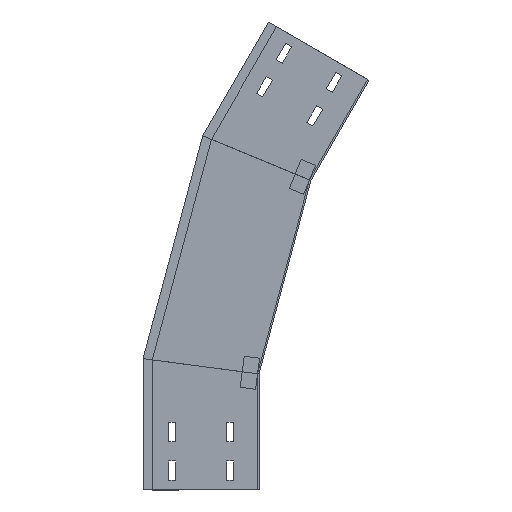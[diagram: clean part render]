
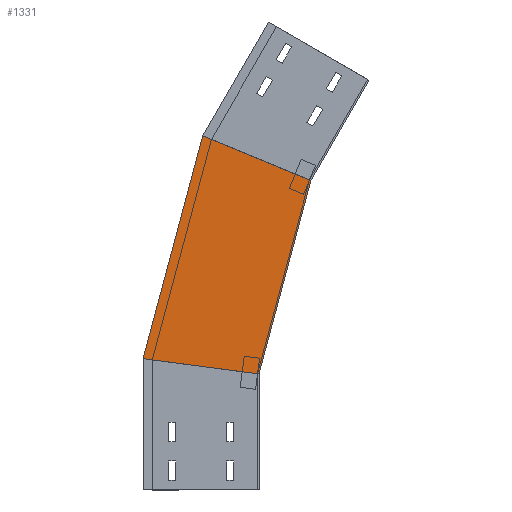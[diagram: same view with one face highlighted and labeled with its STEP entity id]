
A CAD part, left-side view. The second image highlights one B-rep face of the part: STEP entity #1331.
In plain terms, the highlighted planar face has unit normal (-1, 0, 0) as drawn and (1, 0, 0) by its records, which use the part's own axes.
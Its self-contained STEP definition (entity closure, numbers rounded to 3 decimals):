
#44 = DIRECTION ( 'NONE',  ( 0., -0.259, 0.966 ) ) ;
#86 = CARTESIAN_POINT ( 'NONE',  ( 0., -67.034, 400.175 ) ) ;
#119 = ORIENTED_EDGE ( 'NONE', *, *, #1348, .T. ) ;
#223 = CARTESIAN_POINT ( 'NONE',  ( 0., 5.648, 128.921 ) ) ;
#299 = VERTEX_POINT ( 'NONE', #480 ) ;
#475 = DIRECTION ( 'NONE',  ( 0., -0.991, -0.131 ) ) ;
#480 = CARTESIAN_POINT ( 'NONE',  ( 0., 0., 150. ) ) ;
#499 = VECTOR ( 'NONE', #1451, 1000. ) ;
#640 = EDGE_CURVE ( 'NONE', #299, #1707, #1135, .T. ) ;
#702 = EDGE_LOOP ( 'NONE', ( #842, #119, #1077, #1518 ) ) ;
#704 = CARTESIAN_POINT ( 'NONE',  ( 0., 72.744, 458.073 ) ) ;
#788 = LINE ( 'NONE', #1873, #1935 ) ;
#825 = CARTESIAN_POINT ( 'NONE',  ( 0., 5.648, 128.921 ) ) ;
#842 = ORIENTED_EDGE ( 'NONE', *, *, #1576, .T. ) ;
#856 = DIRECTION ( 'NONE',  ( 1., 0., 0. ) ) ;
#872 = PLANE ( 'NONE',  #1888 ) ;
#901 = VERTEX_POINT ( 'NONE', #1820 ) ;
#912 = VERTEX_POINT ( 'NONE', #704 ) ;
#1077 = ORIENTED_EDGE ( 'NONE', *, *, #640, .F. ) ;
#1092 = CARTESIAN_POINT ( 'NONE',  ( 0., -100.899, 386.148 ) ) ;
#1111 = VECTOR ( 'NONE', #44, 1000. ) ;
#1135 = LINE ( 'NONE', #825, #499 ) ;
#1331 = ADVANCED_FACE ( 'NONE', ( #1629 ), #872, .T. ) ;
#1348 = EDGE_CURVE ( 'NONE', #912, #1707, #2009, .T. ) ;
#1451 = DIRECTION ( 'NONE',  ( 0., -0.259, 0.966 ) ) ;
#1473 = DIRECTION ( 'NONE',  ( 0., 0., -1. ) ) ;
#1518 = ORIENTED_EDGE ( 'NONE', *, *, #1809, .F. ) ;
#1567 = DIRECTION ( 'NONE',  ( 0., -0.924, -0.383 ) ) ;
#1576 = EDGE_CURVE ( 'NONE', #901, #912, #1912, .T. ) ;
#1629 = FACE_OUTER_BOUND ( 'NONE', #702, .T. ) ;
#1707 = VERTEX_POINT ( 'NONE', #86 ) ;
#1739 = CARTESIAN_POINT ( 'NONE',  ( 0., 150.537, 167.744 ) ) ;
#1809 = EDGE_CURVE ( 'NONE', #901, #299, #788, .T. ) ;
#1820 = CARTESIAN_POINT ( 'NONE',  ( 0., 150., 169.748 ) ) ;
#1873 = CARTESIAN_POINT ( 'NONE',  ( 0., -19.411, 147.444 ) ) ;
#1888 = AXIS2_PLACEMENT_3D ( 'NONE', #223, #856, #1473 ) ;
#1912 = LINE ( 'NONE', #1739, #1111 ) ;
#1935 = VECTOR ( 'NONE', #475, 1000. ) ;
#1959 = VECTOR ( 'NONE', #1567, 1000. ) ;
#2009 = LINE ( 'NONE', #1092, #1959 ) ;
